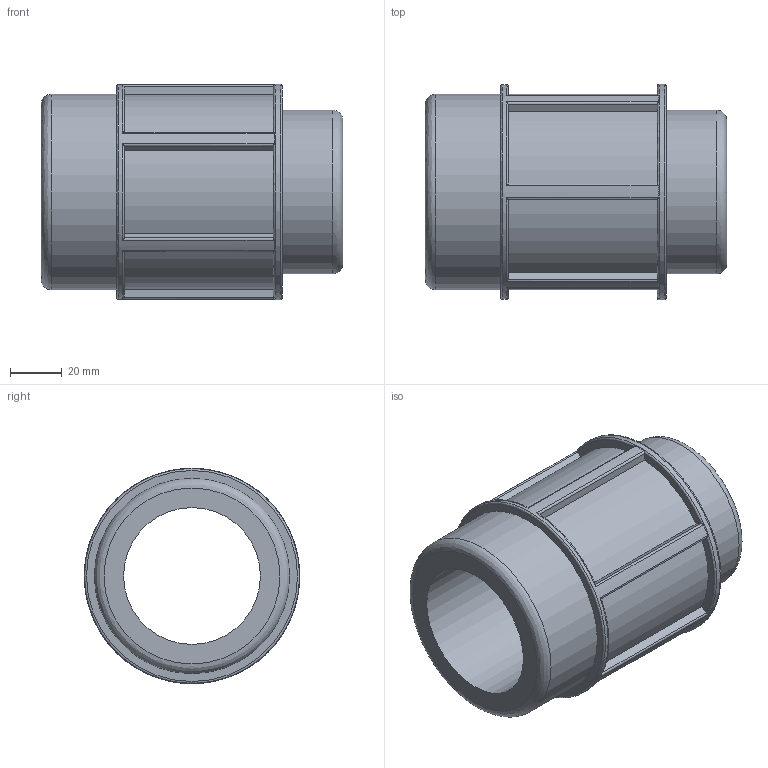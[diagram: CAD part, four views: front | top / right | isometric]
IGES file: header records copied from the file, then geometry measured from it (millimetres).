
Global section: file name: 078901063025.ipt; native system: Autodesk Inventor 2015; preprocessor: unknown; author: KIM; date: 20180409.130904; units: millimetre
Bounding box: 116 x 83 x 83 mm (x, y, z)
Volume: 244370.3 mm3; surface area: 55284.8 mm2
Topology: 1 solids, 1 shells, 62 faces, 179 edges, 121 vertices
Faces by surface type: plane 28, cylinder 22, revolution 12
Full cylindrical faces by diameter (mm): 63 x1, 75.184 x1, 82.702 x1, 83 x1
